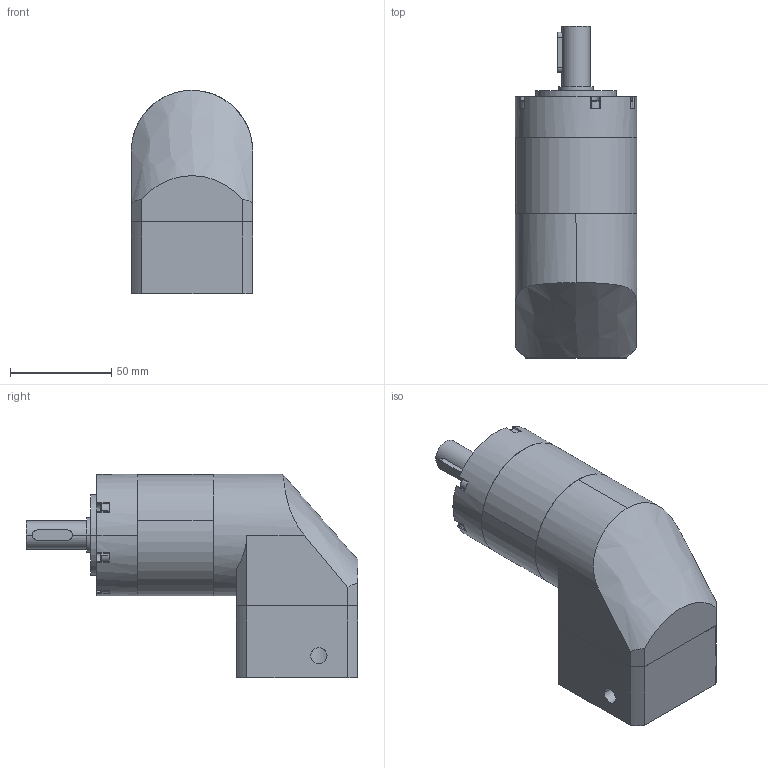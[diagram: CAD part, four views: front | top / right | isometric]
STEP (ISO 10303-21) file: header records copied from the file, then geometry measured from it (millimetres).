
FILE_DESCRIPTION (( 'STEP AP203' ), '1' );
FILE_NAME ('PVEA060-L2-14-50-70.STEP', '2022-07-27T03:51:47', ( 'Windows User' ), ( 'P R C' ), 'SwSTEP 2.0', 'SolidWorks 2016', '' );
FILE_SCHEMA (( 'CONFIG_CONTROL_DESIGN' ));
Length unit declared in the file: millimetre
Products named in the file (9): PVEA060-薊粣; 双列角接触球轴承5203_2; PVEA060-蟀諉啣; 邧埴瑩  5x5x20; 囀鞠褒蹟佪-M5℅16; PVEA060-眊极_揤翉; PVEA060 內齿圈_二级内齿圈; PVEA060-L2-14-50-70; PVEA060 奻屳唳
Assembly tree (8 placements, depth 2):
  PVEA060-L2-14-50-70
    PVEA060 奻屳唳
    PVEA060-薊粣
    双列角接触球轴承5203_2
    PVEA060-蟀諉啣
    囀鞠褒蹟佪-M5℅16
    邧埴瑩  5x5x20
    PVEA060-眊极_揤翉
    PVEA060 內齿圈_二级内齿圈
Bounding box: 60 x 164 x 100.5 mm (x, y, z)
Volume: 450940.7 mm3; surface area: 98005.3 mm2
Topology: 8 solids, 8 shells, 1061 faces, 3041 edges, 1962 vertices
Faces by surface type: plane 557, bspline 279, cylinder 187, cone 38
Entity records: 44303 total; most frequent: CARTESIAN_POINT 17682, ORIENTED_EDGE 5846, DIRECTION 4564, EDGE_CURVE 2923, VERTEX_POINT 1956, VECTOR 1640, LINE 1640, AXIS2_PLACEMENT_3D 1462
